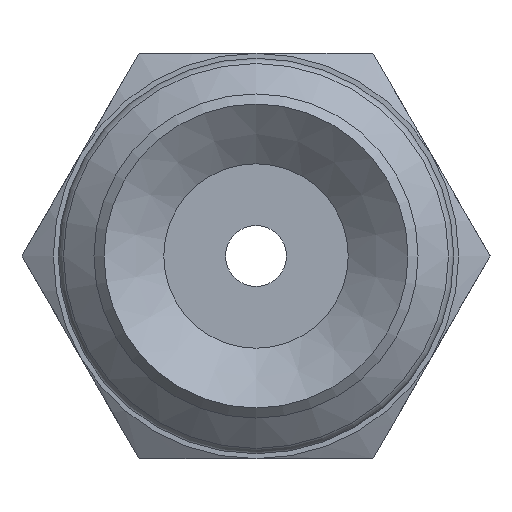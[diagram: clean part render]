
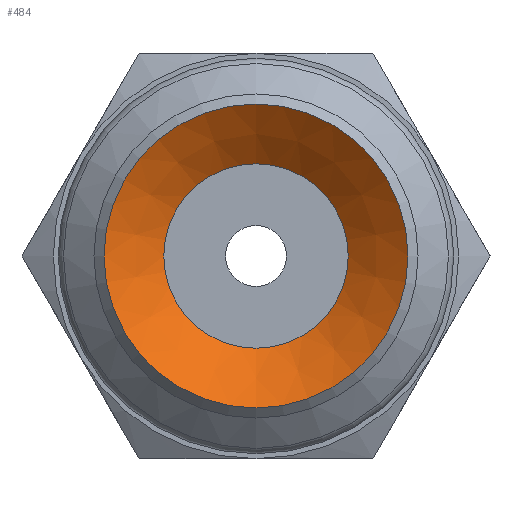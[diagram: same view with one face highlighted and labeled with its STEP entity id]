
A CAD part, front view. The second image highlights one B-rep face of the part: STEP entity #484.
In plain terms, the highlighted conical face has half-angle 52 degrees and reference radius 1.82 mm.
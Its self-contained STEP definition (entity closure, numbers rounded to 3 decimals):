
#484=ADVANCED_FACE('',(#707,#708),#709,.F.);
#707=FACE_BOUND('',#947,.T.);
#708=FACE_OUTER_BOUND('',#948,.T.);
#709=CONICAL_SURFACE('',#949,1.82,0.908);
#947=EDGE_LOOP('',(#1537));
#948=EDGE_LOOP('',(#1538));
#949=AXIS2_PLACEMENT_3D('',#1539,#1540,#1541);
#1537=ORIENTED_EDGE('',*,*,#1736,.F.);
#1538=ORIENTED_EDGE('',*,*,#1738,.T.);
#1539=CARTESIAN_POINT('',(0.0,6.889,0.0));
#1540=DIRECTION('',(-0.0,-1.0,0.));
#1541=DIRECTION('',(0.0,0.,-1.0));
#1736=EDGE_CURVE('',#2001,#2001,#2002,.T.);
#1738=EDGE_CURVE('',#2005,#2005,#2006,.T.);
#2001=VERTEX_POINT('',#2573);
#2002=CIRCLE('',#2574,1.82);
#2005=VERTEX_POINT('',#2577);
#2006=CIRCLE('',#2578,3.0);
#2573=CARTESIAN_POINT('',(0.0,6.889,-1.82));
#2574=AXIS2_PLACEMENT_3D('',#2828,#2829,#2830);
#2577=CARTESIAN_POINT('',(0.0,5.967,-3.0));
#2578=AXIS2_PLACEMENT_3D('',#2834,#2835,#2836);
#2828=CARTESIAN_POINT('',(0.0,6.889,0.0));
#2829=DIRECTION('',(0.0,-1.0,0.));
#2830=DIRECTION('',(0.0,0.,-1.0));
#2834=CARTESIAN_POINT('',(0.0,5.967,0.0));
#2835=DIRECTION('',(0.0,-1.0,0.));
#2836=DIRECTION('',(0.0,0.,-1.0));
